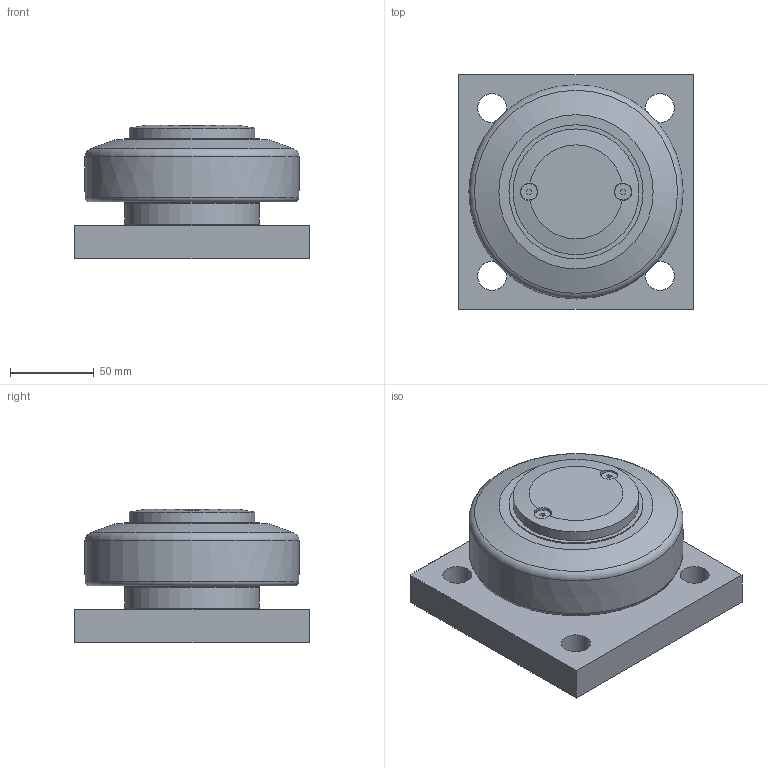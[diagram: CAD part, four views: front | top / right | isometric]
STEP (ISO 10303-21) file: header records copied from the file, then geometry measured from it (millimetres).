
FILE_DESCRIPTION(/* description */ ('-','CAx-IF Rec.Pracs.---Representation and Presentation of Product Manufacturing Information (PMI)---4.0---2014-10-13'),/* implementation_level */ '2;1');
FILE_NAME(/* name */ 'c:\temp\9c0b8a0f-ad27-4047-ad2b-d24da2255fd4\6b0b5c3e-b6d2-4293-8077-df430ae1d037.stp',/* time_stamp */ '2020-04-01T16:20:54+02:00',/* author */ ('-'),/* organization */ ('NTI CADcenter A/S'),/* preprocessor_version */ 'ST-DEVELOPER v18',/* originating_system */ 'Autodesk Inventor 2020',/* authorisation */ '-');
FILE_SCHEMA (('AP242_MANAGED_MODEL_BASED_3D_ENGINEERING_MIM_LF { 1 0 10303 442 1 1 4 }'));
Length unit declared in the file: millimetre
Products named in the file (1): PT 120.0362 BQ1000_Kontur
Bounding box: 140 x 140 x 79.5 mm (x, y, z)
Volume: 930666.4 mm3; surface area: 85872.1 mm2
Topology: 1 solids, 1 shells, 48 faces, 128 edges, 89 vertices
Faces by surface type: plane 27, cylinder 12, cone 6, torus 2, bspline 1
Full cylindrical faces by diameter (mm): 9.75 x2, 10.4 x2, 17.294 x4, 75 x1, 80 x3
Entity records: 1649 total; most frequent: CARTESIAN_POINT 332, DIRECTION 278, ORIENTED_EDGE 256, EDGE_CURVE 128, AXIS2_PLACEMENT_3D 106, VERTEX_POINT 89, LINE 66, VECTOR 66
